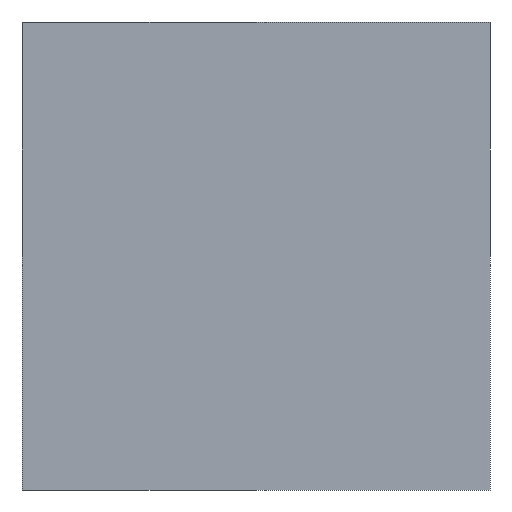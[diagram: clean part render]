
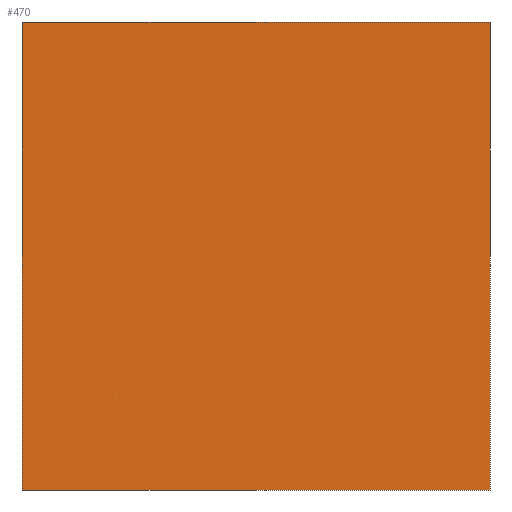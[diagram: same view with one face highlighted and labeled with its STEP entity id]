
A CAD part, left-side view. The second image highlights one B-rep face of the part: STEP entity #470.
In plain terms, the highlighted planar face has unit normal (-1, 0, 0).
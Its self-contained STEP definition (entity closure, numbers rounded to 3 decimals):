
#194=DIRECTION('',(0.,0.,1.));
#195=VECTOR('',#194,75.);
#196=CARTESIAN_POINT('',(18.,-37.5,-37.5));
#197=LINE('',#196,#195);
#198=DIRECTION('',(0.,-1.,0.));
#199=VECTOR('',#198,75.);
#200=CARTESIAN_POINT('',(18.,37.5,-37.5));
#201=LINE('',#200,#199);
#202=DIRECTION('',(0.,0.,-1.));
#203=VECTOR('',#202,75.);
#204=CARTESIAN_POINT('',(18.,37.5,37.5));
#205=LINE('',#204,#203);
#206=DIRECTION('',(0.,1.,0.));
#207=VECTOR('',#206,75.);
#208=CARTESIAN_POINT('',(18.,-37.5,37.5));
#209=LINE('',#208,#207);
#270=CARTESIAN_POINT('',(18.,-37.5,-37.5));
#271=CARTESIAN_POINT('',(18.,-37.5,37.5));
#272=VERTEX_POINT('',#270);
#273=VERTEX_POINT('',#271);
#274=CARTESIAN_POINT('',(18.,37.5,37.5));
#275=VERTEX_POINT('',#274);
#276=CARTESIAN_POINT('',(18.,37.5,-37.5));
#277=VERTEX_POINT('',#276);
#456=CARTESIAN_POINT('',(18.,0.,0.));
#457=DIRECTION('',(-1.,0.,0.));
#458=DIRECTION('',(0.,1.,0.));
#459=AXIS2_PLACEMENT_3D('',#456,#457,#458);
#460=PLANE('',#459);
#461=ORIENTED_EDGE('',*,*,#446,.F.);
#463=ORIENTED_EDGE('',*,*,#462,.F.);
#465=ORIENTED_EDGE('',*,*,#464,.F.);
#467=ORIENTED_EDGE('',*,*,#466,.F.);
#468=EDGE_LOOP('',(#461,#463,#465,#467));
#469=FACE_OUTER_BOUND('',#468,.F.);
#446=EDGE_CURVE('',#272,#273,#197,.T.);
#462=EDGE_CURVE('',#277,#272,#201,.T.);
#464=EDGE_CURVE('',#275,#277,#205,.T.);
#466=EDGE_CURVE('',#273,#275,#209,.T.);
#470=ADVANCED_FACE('',(#469),#460,.T.);
